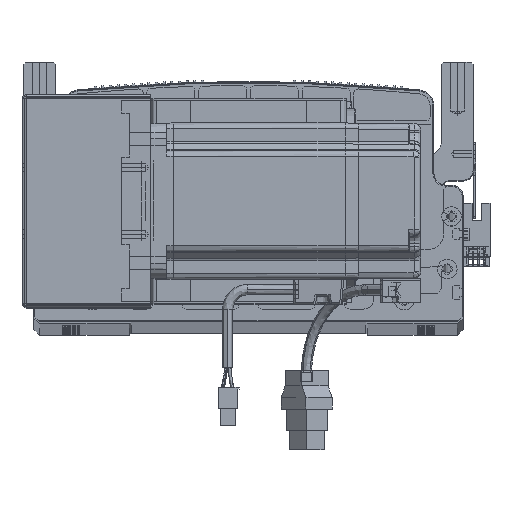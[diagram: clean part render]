
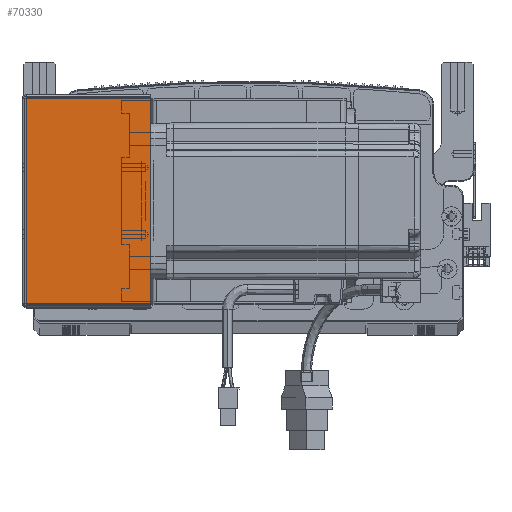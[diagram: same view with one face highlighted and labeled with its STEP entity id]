
A CAD part, top view. The second image highlights one B-rep face of the part: STEP entity #70330.
In plain terms, the highlighted planar face has unit normal (0, 0, 1) as drawn and (0, 0, -1) by its records, which use the part's own axes.
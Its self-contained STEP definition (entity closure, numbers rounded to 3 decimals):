
#1004 = ORIENTED_EDGE ( 'NONE', *, *, #84855, .F. ) ;
#1160 = VECTOR ( 'NONE', #63143, 1000. ) ;
#2162 = ORIENTED_EDGE ( 'NONE', *, *, #92590, .T. ) ;
#2916 = VERTEX_POINT ( 'NONE', #60335 ) ;
#6008 = CARTESIAN_POINT ( 'NONE',  ( 64.5, 0.707, -205.5 ) ) ;
#9236 = DIRECTION ( 'NONE',  ( 0., -1., 0. ) ) ;
#10939 = EDGE_CURVE ( 'NONE', #62602, #84162, #42088, .T. ) ;
#20097 = AXIS2_PLACEMENT_3D ( 'NONE', #81412, #50371, #50030 ) ;
#23975 = ORIENTED_EDGE ( 'NONE', *, *, #10939, .F. ) ;
#26570 = PLANE ( 'NONE',  #20097 ) ;
#32496 = CARTESIAN_POINT ( 'NONE',  ( 0., 105.293, -205.5 ) ) ;
#33009 = DIRECTION ( 'NONE',  ( 0., -1., 0. ) ) ;
#39357 = EDGE_CURVE ( 'NONE', #2916, #84162, #81211, .T. ) ;
#40681 = VECTOR ( 'NONE', #33009, 1000. ) ;
#42088 = LINE ( 'NONE', #47822, #64244 ) ;
#43040 = LINE ( 'NONE', #32496, #1160 ) ;
#47822 = CARTESIAN_POINT ( 'NONE',  ( 0., 0.707, -205.5 ) ) ;
#48834 = DIRECTION ( 'NONE',  ( 1., 0., 0. ) ) ;
#50030 = DIRECTION ( 'NONE',  ( 1., 0., 0. ) ) ;
#50371 = DIRECTION ( 'NONE',  ( 0., 0., 1. ) ) ;
#56437 = CARTESIAN_POINT ( 'NONE',  ( 64.5, 0., -205.5 ) ) ;
#56796 = CARTESIAN_POINT ( 'NONE',  ( 0.737, 0., -205.5 ) ) ;
#60335 = CARTESIAN_POINT ( 'NONE',  ( 64.5, 105.293, -205.5 ) ) ;
#62602 = VERTEX_POINT ( 'NONE', #73206 ) ;
#63143 = DIRECTION ( 'NONE',  ( 1., 0., 0. ) ) ;
#63890 = VERTEX_POINT ( 'NONE', #96777 ) ;
#64244 = VECTOR ( 'NONE', #48834, 1000. ) ;
#69042 = LINE ( 'NONE', #56796, #40681 ) ;
#70330 = ADVANCED_FACE ( 'NONE', ( #99010 ), #26570, .F. ) ;
#73206 = CARTESIAN_POINT ( 'NONE',  ( 0.737, 0.707, -205.5 ) ) ;
#81211 = LINE ( 'NONE', #56437, #98528 ) ;
#81412 = CARTESIAN_POINT ( 'NONE',  ( 0., 0., -205.5 ) ) ;
#84162 = VERTEX_POINT ( 'NONE', #6008 ) ;
#84855 = EDGE_CURVE ( 'NONE', #63890, #62602, #69042, .T. ) ;
#89321 = EDGE_LOOP ( 'NONE', ( #1004, #2162, #99092, #23975 ) ) ;
#92590 = EDGE_CURVE ( 'NONE', #63890, #2916, #43040, .T. ) ;
#96777 = CARTESIAN_POINT ( 'NONE',  ( 0.737, 105.293, -205.5 ) ) ;
#98528 = VECTOR ( 'NONE', #9236, 1000. ) ;
#99010 = FACE_OUTER_BOUND ( 'NONE', #89321, .T. ) ;
#99092 = ORIENTED_EDGE ( 'NONE', *, *, #39357, .T. ) ;
